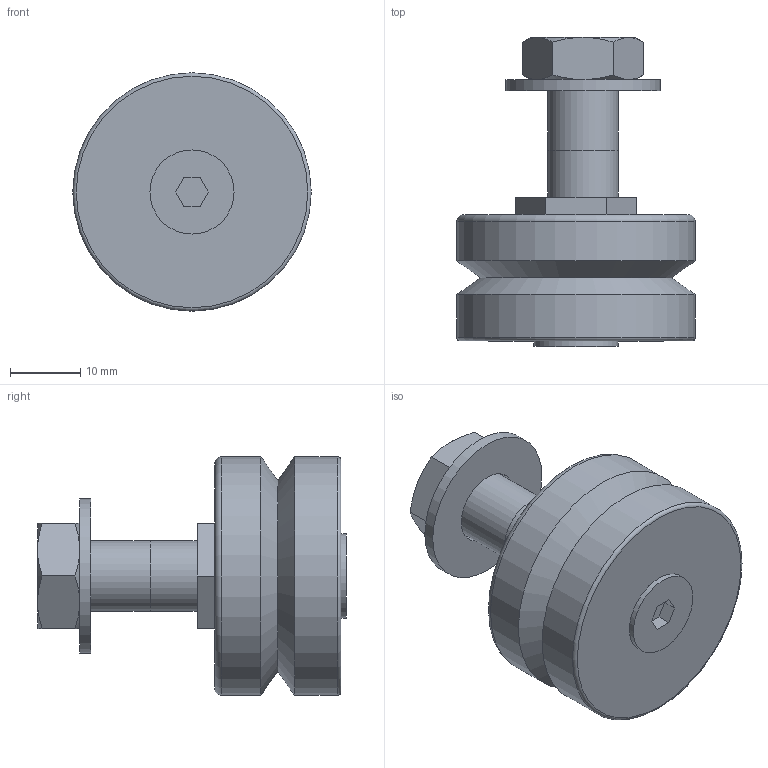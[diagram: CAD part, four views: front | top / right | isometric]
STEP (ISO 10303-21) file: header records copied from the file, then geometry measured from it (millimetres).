
FILE_DESCRIPTION(('STEP AP203'),'1');
FILE_NAME('//192.168.1.1/share/s-4 技術開発/s-4-4_CAD/s-4-4-6_見直し、確認済み/013 修正済み(済)/ジャーナル_TOP/NAL/NAL-34-E.step','2022-03-11T07:28:53',(' '),(' '),'Spatial InterOp 3D',' ',' ');
FILE_SCHEMA(('CONFIG_CONTROL_DESIGN'));
Length unit declared in the file: millimetre
Products named in the file (3): 1; 2; 3
Bounding box: 34 x 44.05 x 34 mm (x, y, z)
Volume: 19066.3 mm3; surface area: 6343.4 mm2
Topology: 3 solids, 3 shells, 59 faces, 129 edges, 80 vertices
Faces by surface type: plane 34, cone 14, cylinder 8, torus 2, sphere 1
Full cylindrical faces by diameter (mm): 8.5 x1, 10 x2, 10.5 x1, 12 x1, 22 x1, 34 x2
Entity records: 1740 total; most frequent: CARTESIAN_POINT 390, DIRECTION 250, ORIENTED_EDGE 228, EDGE_CURVE 114, AXIS2_PLACEMENT_3D 98, EDGE_LOOP 80, VERTEX_POINT 78, FACE_OUTER_BOUND 70
